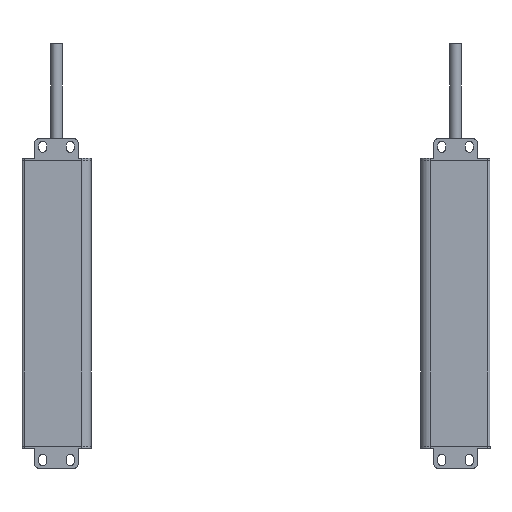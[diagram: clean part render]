
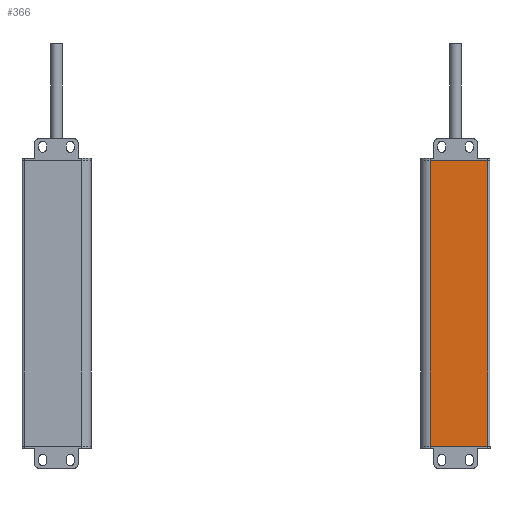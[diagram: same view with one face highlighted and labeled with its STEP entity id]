
A CAD part, front view. The second image highlights one B-rep face of the part: STEP entity #366.
In plain terms, the highlighted planar face has unit normal (0, -1, 0).
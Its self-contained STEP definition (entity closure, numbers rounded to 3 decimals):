
#123=PLANE('',#5869);
#366=ADVANCED_FACE('',(#797),#123,.T.);
#797=FACE_OUTER_BOUND('',#1073,.T.);
#1073=EDGE_LOOP('',(#1780,#1781,#1782,#1783));
#1780=ORIENTED_EDGE('',*,*,#3977,.T.);
#1781=ORIENTED_EDGE('',*,*,#3978,.F.);
#1782=ORIENTED_EDGE('',*,*,#3979,.F.);
#1783=ORIENTED_EDGE('',*,*,#3903,.T.);
#3351=VERTEX_POINT('',#8106);
#3352=VERTEX_POINT('',#8108);
#3421=VERTEX_POINT('',#8253);
#3422=VERTEX_POINT('',#8257);
#3903=EDGE_CURVE('',#3352,#3351,#4726,.T.);
#3977=EDGE_CURVE('',#3351,#3421,#4771,.T.);
#3978=EDGE_CURVE('',#3422,#3421,#4772,.T.);
#3979=EDGE_CURVE('',#3352,#3422,#4773,.T.);
#4726=LINE('',#8107,#5280);
#4771=LINE('',#8254,#5325);
#4772=LINE('',#8256,#5326);
#4773=LINE('',#8258,#5327);
#5280=VECTOR('',#6413,1.);
#5325=VECTOR('',#6522,1.);
#5326=VECTOR('',#6525,1.);
#5327=VECTOR('',#6526,1.);
#5869=AXIS2_PLACEMENT_3D('',#8259,#6527,#6528);
#6413=DIRECTION('',(1.,0.,0.));
#6522=DIRECTION('',(0.,0.,1.));
#6525=DIRECTION('',(1.,0.,0.));
#6526=DIRECTION('',(0.,0.,1.));
#6527=DIRECTION('',(0.,-1.,0.));
#6528=DIRECTION('',(-1.,0.,0.));
#8106=CARTESIAN_POINT('',(3.35,-1.3,-100.));
#8107=CARTESIAN_POINT('',(-21.15,-1.3,-100.));
#8108=CARTESIAN_POINT('',(-21.15,-1.3,-100.));
#8253=CARTESIAN_POINT('',(3.35,-1.3,22.));
#8254=CARTESIAN_POINT('',(3.35,-1.3,-100.));
#8256=CARTESIAN_POINT('',(-4122.897,-1.3,22.));
#8257=CARTESIAN_POINT('',(-21.15,-1.3,22.));
#8258=CARTESIAN_POINT('',(-21.15,-1.3,-100.));
#8259=CARTESIAN_POINT('',(-21.15,-1.3,-100.));
